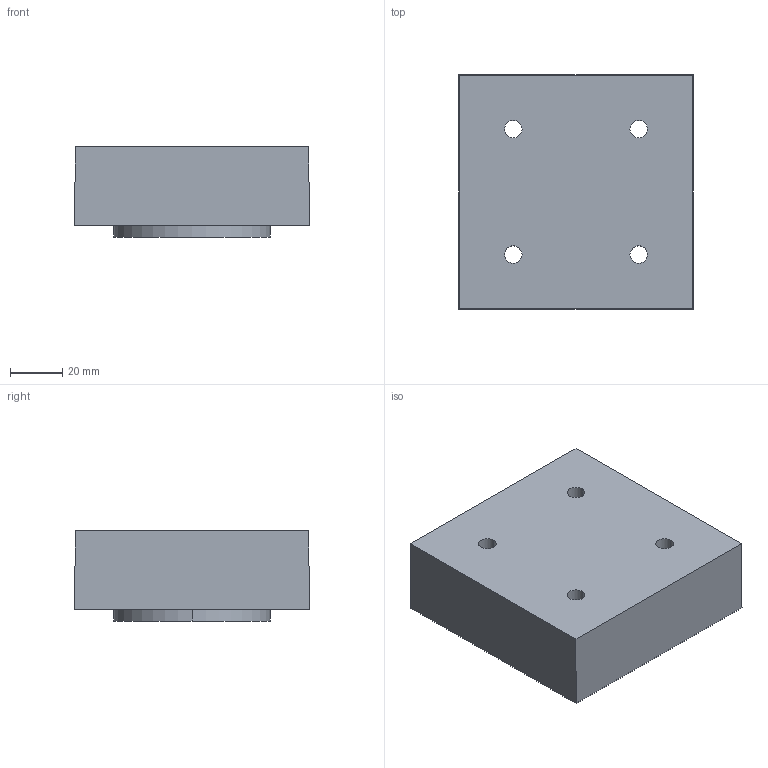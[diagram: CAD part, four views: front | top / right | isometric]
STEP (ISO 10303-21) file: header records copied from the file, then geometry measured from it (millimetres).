
FILE_DESCRIPTION( ( '' ), '1' );
FILE_NAME( 'C:/Users/dhek/Desktop/New folder/C_6/Legadrive/9243047.stp', '2018-02-20T11:47:37', ( '' ), ( '' ), ' ', ' ', ' ' );
FILE_SCHEMA( ( 'CONFIG_CONTROL_DESIGN' ) );
Length unit declared in the file: millimetre
Products named in the file (1): 1
Bounding box: 89.82 x 89.82 x 34.5 mm (x, y, z)
Volume: 154190.1 mm3; surface area: 40338.4 mm2
Topology: 1 solids, 1 shells, 25 faces, 60 edges, 40 vertices
Faces by surface type: plane 13, cylinder 12
Entity records: 798 total; most frequent: DIRECTION 136, CARTESIAN_POINT 126, ORIENTED_EDGE 120, EDGE_CURVE 60, AXIS2_PLACEMENT_3D 50, VERTEX_POINT 40, EDGE_LOOP 36, LINE 36
